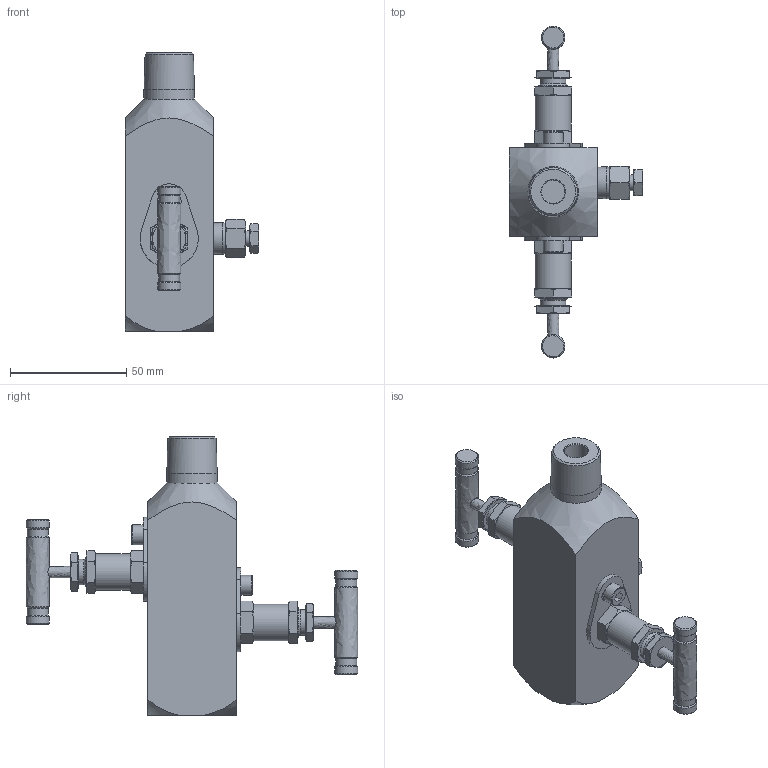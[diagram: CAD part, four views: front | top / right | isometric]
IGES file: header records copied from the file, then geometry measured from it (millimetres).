
Global section: file name: SGBV2-M8N-F8N; native system: Autodesk Inventor 2016; preprocessor: unknown; author: DESIGNPC2; date: 20161006.215953; units: millimetre
Bounding box: 57.6 x 142.7 x 120 mm (x, y, z)
Volume: 162051 mm3; surface area: 31290.8 mm2
Topology: 5 solids, 5 shells, 302 faces, 749 edges, 488 vertices
Faces by surface type: bspline 302
